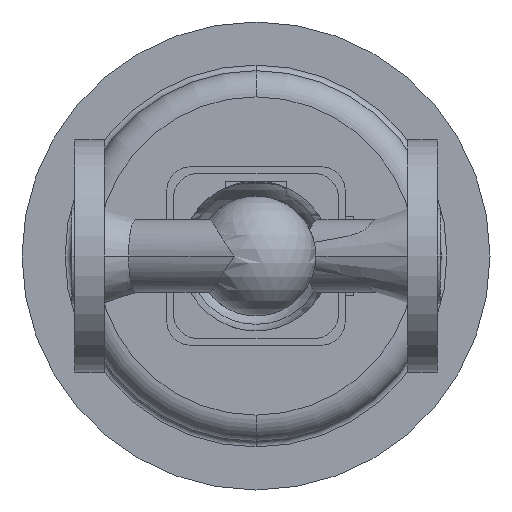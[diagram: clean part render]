
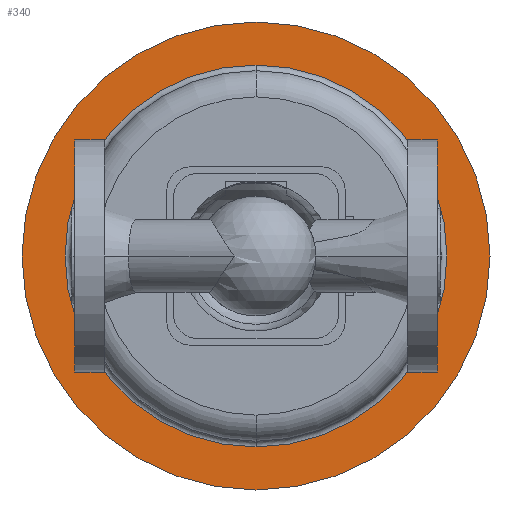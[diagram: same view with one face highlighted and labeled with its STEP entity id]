
A CAD part, front view. The second image highlights one B-rep face of the part: STEP entity #340.
In plain terms, the highlighted planar face has unit normal (0, -1, 0).
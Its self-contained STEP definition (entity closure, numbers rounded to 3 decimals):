
#340 = ADVANCED_FACE( '', ( #828, #829 ), #830, .T. );
#828 = FACE_OUTER_BOUND( '', #1325, .T. );
#829 = FACE_BOUND( '', #1326, .T. );
#830 = PLANE( '', #1327 );
#1325 = EDGE_LOOP( '', ( #3095, #3096 ) );
#1326 = EDGE_LOOP( '', ( #3097, #3098, #3099 ) );
#1327 = AXIS2_PLACEMENT_3D( '', #3100, #3101, #3102 );
#3095 = ORIENTED_EDGE( '', *, *, #3543, .F. );
#3096 = ORIENTED_EDGE( '', *, *, #3714, .F. );
#3097 = ORIENTED_EDGE( '', *, *, #3712, .T. );
#3098 = ORIENTED_EDGE( '', *, *, #3550, .T. );
#3099 = ORIENTED_EDGE( '', *, *, #3713, .T. );
#3100 = CARTESIAN_POINT( '', ( 212., 562.5, 0. ) );
#3101 = DIRECTION( '', ( 0., -1., 0. ) );
#3102 = DIRECTION( '', ( -1., 0., 0. ) );
#3543 = EDGE_CURVE( '', #4375, #4378, #4379, .T. );
#3550 = EDGE_CURVE( '', #4384, #4390, #4392, .T. );
#3712 = EDGE_CURVE( '', #4661, #4384, #4662, .T. );
#3713 = EDGE_CURVE( '', #4390, #4661, #4663, .T. );
#3714 = EDGE_CURVE( '', #4378, #4375, #4664, .T. );
#4375 = VERTEX_POINT( '', #6413 );
#4378 = VERTEX_POINT( '', #6417 );
#4379 = CIRCLE( '', #6418, 125. );
#4384 = VERTEX_POINT( '', #6424 );
#4390 = VERTEX_POINT( '', #6430 );
#4392 = CIRCLE( '', #6432, 102. );
#4661 = VERTEX_POINT( '', #6770 );
#4662 = CIRCLE( '', #6771, 102. );
#4663 = CIRCLE( '', #6772, 102. );
#4664 = CIRCLE( '', #6773, 125. );
#6413 = CARTESIAN_POINT( '', ( 223.5, 562.5, 0. ) );
#6417 = CARTESIAN_POINT( '', ( -26.5, 562.5, 0. ) );
#6418 = AXIS2_PLACEMENT_3D( '', #7506, #7507, #7508 );
#6424 = CARTESIAN_POINT( '', ( 98.5, 562.5, -102. ) );
#6430 = CARTESIAN_POINT( '', ( 98.5, 562.5, 102. ) );
#6432 = AXIS2_PLACEMENT_3D( '', #7525, #7526, #7527 );
#6770 = CARTESIAN_POINT( '', ( 200.5, 562.5, 0. ) );
#6771 = AXIS2_PLACEMENT_3D( '', #7873, #7874, #7875 );
#6772 = AXIS2_PLACEMENT_3D( '', #7876, #7877, #7878 );
#6773 = AXIS2_PLACEMENT_3D( '', #7879, #7880, #7881 );
#7506 = CARTESIAN_POINT( '', ( 98.5, 562.5, 0. ) );
#7507 = DIRECTION( '', ( 0., 1., 0. ) );
#7508 = DIRECTION( '', ( 1., 0., 0. ) );
#7525 = CARTESIAN_POINT( '', ( 98.5, 562.5, 0. ) );
#7526 = DIRECTION( '', ( 0., 1., 0. ) );
#7527 = DIRECTION( '', ( 1., 0., 0. ) );
#7873 = CARTESIAN_POINT( '', ( 98.5, 562.5, 0. ) );
#7874 = DIRECTION( '', ( 0., 1., 0. ) );
#7875 = DIRECTION( '', ( 1., 0., 0. ) );
#7876 = CARTESIAN_POINT( '', ( 98.5, 562.5, 0. ) );
#7877 = DIRECTION( '', ( 0., 1., 0. ) );
#7878 = DIRECTION( '', ( 1., 0., 0. ) );
#7879 = CARTESIAN_POINT( '', ( 98.5, 562.5, 0. ) );
#7880 = DIRECTION( '', ( 0., 1., 0. ) );
#7881 = DIRECTION( '', ( 1., 0., 0. ) );
